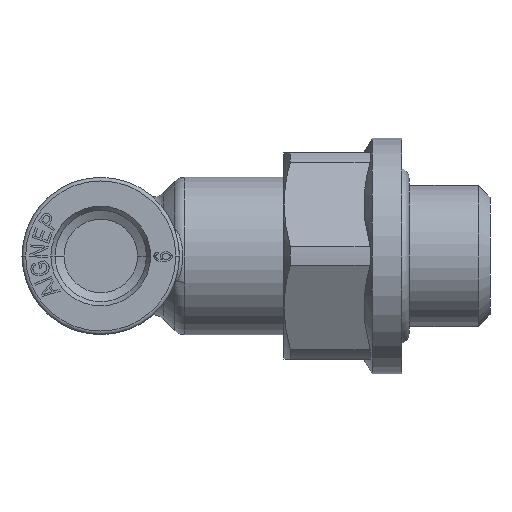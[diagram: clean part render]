
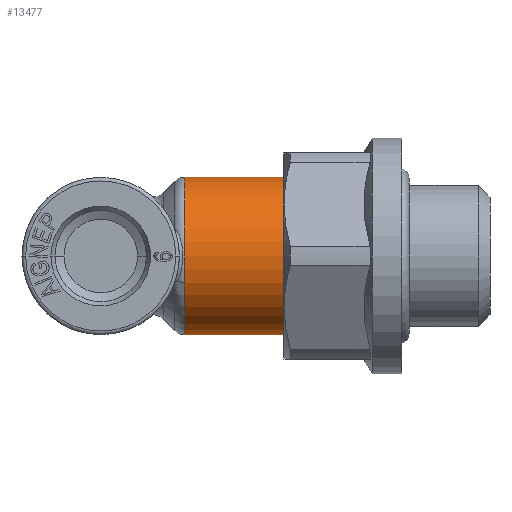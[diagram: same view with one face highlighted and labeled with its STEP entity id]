
A CAD part, left-side view. The second image highlights one B-rep face of the part: STEP entity #13477.
In plain terms, the highlighted cylindrical face has radius 5.35 mm (diameter 10.7 mm), a partial arc.
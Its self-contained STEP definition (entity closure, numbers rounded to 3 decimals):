
#634 = AXIS2_PLACEMENT_3D ( 'NONE', #15776, #9218, #14489 ) ;
#1142 = ORIENTED_EDGE ( 'NONE', *, *, #16403, .T. ) ;
#2225 = EDGE_LOOP ( 'NONE', ( #8446, #14853, #1142, #10389 ) ) ;
#2456 = DIRECTION ( 'NONE',  ( 0., -1., 0. ) ) ;
#2834 = CARTESIAN_POINT ( 'NONE',  ( 0., 0., 5.35 ) ) ;
#3454 = CIRCLE ( 'NONE', #6241, 5.35 ) ;
#3534 = VERTEX_POINT ( 'NONE', #12107 ) ;
#3671 = VECTOR ( 'NONE', #13475, 1000. ) ;
#4321 = EDGE_CURVE ( 'NONE', #7227, #3534, #11141, .T. ) ;
#4587 = CARTESIAN_POINT ( 'NONE',  ( 0., 2.346, -5.35 ) ) ;
#4852 = CARTESIAN_POINT ( 'NONE',  ( 0., 0., 0. ) ) ;
#5028 = DIRECTION ( 'NONE',  ( -1., 0., 0. ) ) ;
#5582 = LINE ( 'NONE', #11215, #14795 ) ;
#5854 = VERTEX_POINT ( 'NONE', #4587 ) ;
#6241 = AXIS2_PLACEMENT_3D ( 'NONE', #11701, #10312, #5028 ) ;
#7227 = VERTEX_POINT ( 'NONE', #11912 ) ;
#7435 = EDGE_CURVE ( 'NONE', #7227, #14364, #15268, .T. ) ;
#8446 = ORIENTED_EDGE ( 'NONE', *, *, #4321, .F. ) ;
#8626 = DIRECTION ( 'NONE',  ( 0., -1., 0. ) ) ;
#9218 = DIRECTION ( 'NONE',  ( 0., -1., 0. ) ) ;
#10055 = EDGE_CURVE ( 'NONE', #5854, #3534, #3454, .T. ) ;
#10312 = DIRECTION ( 'NONE',  ( 0., 1., 0. ) ) ;
#10389 = ORIENTED_EDGE ( 'NONE', *, *, #10055, .T. ) ;
#11141 = LINE ( 'NONE', #2834, #3671 ) ;
#11215 = CARTESIAN_POINT ( 'NONE',  ( 0., 0., -5.35 ) ) ;
#11381 = AXIS2_PLACEMENT_3D ( 'NONE', #4852, #2456, #12984 ) ;
#11701 = CARTESIAN_POINT ( 'NONE',  ( 0., 2.346, 0. ) ) ;
#11912 = CARTESIAN_POINT ( 'NONE',  ( 0., 9.086, 5.35 ) ) ;
#12107 = CARTESIAN_POINT ( 'NONE',  ( 0., 2.346, 5.35 ) ) ;
#12984 = DIRECTION ( 'NONE',  ( 0., 0., -1. ) ) ;
#13475 = DIRECTION ( 'NONE',  ( 0., -1., 0. ) ) ;
#13477 = ADVANCED_FACE ( 'NONE', ( #13864 ), #15240, .T. ) ;
#13504 = CARTESIAN_POINT ( 'NONE',  ( 0., 9.086, -5.35 ) ) ;
#13864 = FACE_OUTER_BOUND ( 'NONE', #2225, .T. ) ;
#14364 = VERTEX_POINT ( 'NONE', #13504 ) ;
#14489 = DIRECTION ( 'NONE',  ( 0., 0., -1. ) ) ;
#14795 = VECTOR ( 'NONE', #8626, 1000. ) ;
#14853 = ORIENTED_EDGE ( 'NONE', *, *, #7435, .T. ) ;
#15240 = CYLINDRICAL_SURFACE ( 'NONE', #11381, 5.35 ) ;
#15268 = CIRCLE ( 'NONE', #634, 5.35 ) ;
#15776 = CARTESIAN_POINT ( 'NONE',  ( 0., 9.086, 0. ) ) ;
#16403 = EDGE_CURVE ( 'NONE', #14364, #5854, #5582, .T. ) ;
